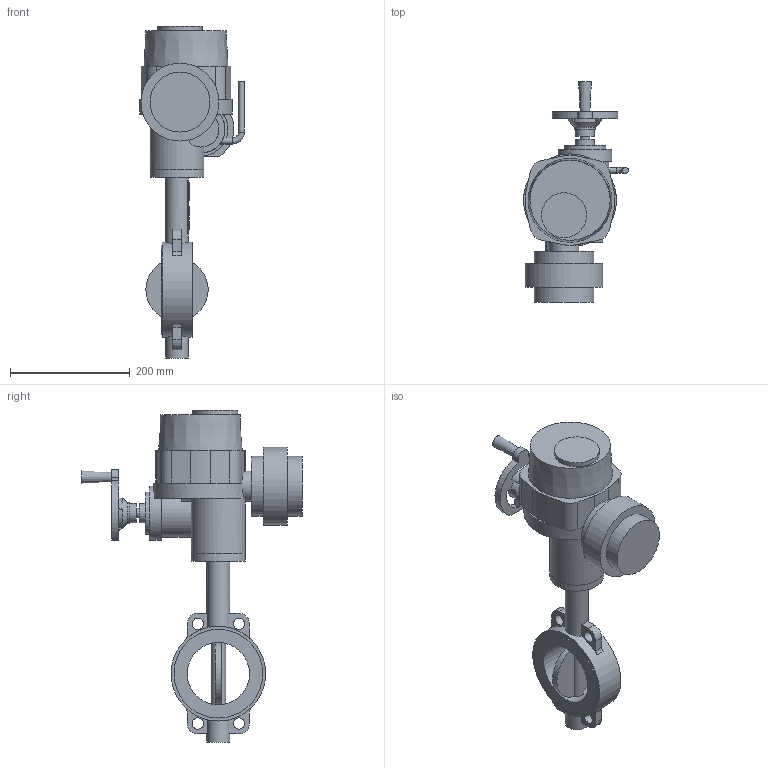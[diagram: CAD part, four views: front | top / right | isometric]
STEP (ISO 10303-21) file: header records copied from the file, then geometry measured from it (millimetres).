
FILE_DESCRIPTION(('STEP AP203'), '1');
FILE_NAME('Çàòâîð 017W.Z(÷óãóí) DN100+ÝÏ QT.A008', '', ('UNSPECIFIED'), ('UNSPECIFIED'), 'ASCON STEP Converter 1.6', 'ASCON Math Kernel', '');
FILE_SCHEMA(('CONFIG_CONTROL_DESIGN'));
Length unit declared in the file: millimetre
Bounding box: 175 x 368 x 554 mm (x, y, z)
Volume: 4557894.7 mm3; surface area: 375908.4 mm2
Topology: 1 solids, 2 shells, 720 faces, 2063 edges, 1327 vertices
Faces by surface type: cylinder 494, plane 222, cone 3, torus 1
Full cylindrical faces by diameter (mm): 6.7 x4, 10 x6, 15.9 x1, 16 x1, 19 x4, 20 x1, 24 x1, 32 x2, 35 x1, 38 x2, 50 x1, 55 x1, 70 x1, 75 x1, 90 x3, 100 x2, 104 x1, 130 x1, 148 x2, 158 x1
Entity records: 30787 total; most frequent: CARTESIAN_POINT 5303, DIRECTION 4504, ORIENTED_EDGE 3983, EDGE_CURVE 2023, AXIS2_PLACEMENT_3D 1788, VERTEX_POINT 1327, CIRCLE 1067, LINE 928
